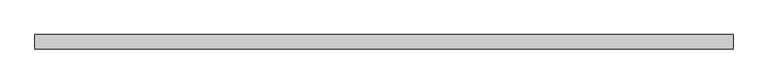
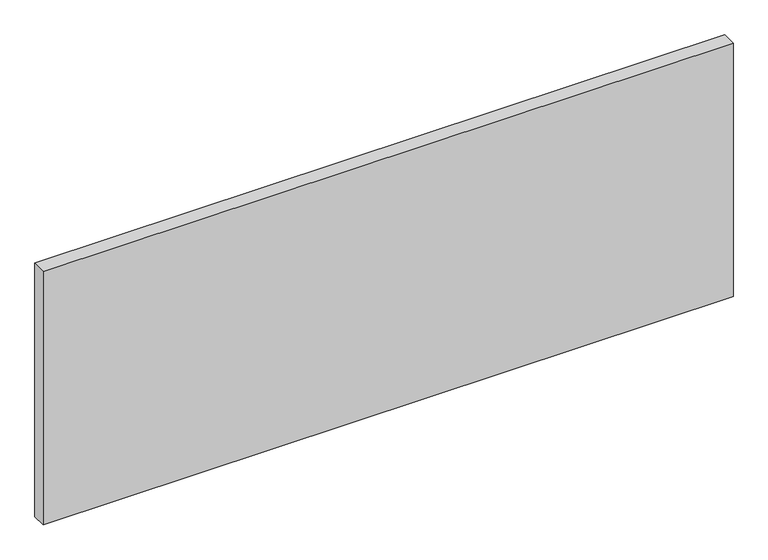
"""IFC4 building model written with IfcOpenShell, lengths in millimetres: proxy geometry, AERO^OFFICE 4_25x78 HAT BRIDGE-WORKSURFACE."""

import ifcopenshell
import ifcopenshell.guid

model = None  # the IFC model being written
_history = None  # IfcOwnerHistory: only IFC2X3 demands one
_inside = {}  # id of a spatial element -> (the spatial element, [elements in it])
_under = {}  # id of a project, library or spatial element -> (it, [spatial elements below it])
_declared = {}  # id of a project -> (the project, [libraries it declares])
_typed = {}  # id of a type object -> (the type object, [elements of that type])
_made_of = {}  # id of a material, layer set ... -> (it, [elements and type objects made of it])


def new_model(schema):
    """Start an empty IFC model of exactly this schema.

    Asked for "IFC4X3", IfcOpenShell would pick the latest addendum, in which some entities
    have other attributes; the version numbers below select the first issue.
    IFC2X3 requires an IfcOwnerHistory on every rooted entity: one is made here for all.
    """
    global model, _history
    if schema == "IFC4X3":
        model = ifcopenshell.file(schema_version=(4, 3, 0, 0))
    else:
        model = ifcopenshell.file(schema=schema)
    _inside.clear()
    _under.clear()
    _declared.clear()
    _typed.clear()
    _made_of.clear()
    _history = None
    if model.schema == "IFC2X3":
        org = make("IfcOrganization", Name="unknown")
        user = make(
            "IfcPersonAndOrganization",
            ThePerson=make("IfcPerson", FamilyName="unknown"),
            TheOrganization=org,
        )
        app = make(
            "IfcApplication",
            ApplicationDeveloper=org,
            Version="unknown",
            ApplicationFullName="unknown",
            ApplicationIdentifier="unknown",
        )
        _history = make(
            "IfcOwnerHistory",
            OwningUser=user,
            OwningApplication=app,
            ChangeAction="ADDED",
            CreationDate=0,
        )
    return model


def make(cls, **values):
    """One entity of the class cls with the attributes given. An attribute that is None is left unset."""
    return model.create_entity(
        cls, **{name: value for name, value in values.items() if value is not None}
    )


def rooted(cls, **values):
    """An entity with a GlobalId (a new one), such as an element, a storey or a relation."""
    return make(cls, GlobalId=ifcopenshell.guid.new(), OwnerHistory=_history, **values)


def si_unit(unit_type, name, prefix=None):
    """IfcSIUnit, for example si_unit("LENGTHUNIT", "METRE", prefix="MILLI")."""
    return make("IfcSIUnit", UnitType=unit_type, Prefix=prefix, Name=name)


def assignment(units):
    """IfcUnitAssignment: the units of a project."""
    return None if units is None else make("IfcUnitAssignment", Units=units)


def point(xyz):
    """IfcCartesianPoint."""
    return None if xyz is None else make("IfcCartesianPoint", Coordinates=xyz)


def direction(xyz):
    """IfcDirection."""
    return None if xyz is None else make("IfcDirection", DirectionRatios=xyz)


def frame(location, z_axis=None, x_axis=None):
    """IfcAxis2Placement3D, a coordinate frame: its origin and axes. An axis left out is left unset."""
    return make(
        "IfcAxis2Placement3D",
        Location=point(location),
        Axis=direction(z_axis),
        RefDirection=direction(x_axis),
    )


def origin():
    """The frame at (0, 0, 0) with its axes left unset."""
    return frame((0.0, 0.0, 0.0))


def place(relative_to, where):
    """IfcLocalPlacement: puts the frame where relative to a parent placement (None: the world)."""
    return make(
        "IfcLocalPlacement", PlacementRelTo=relative_to, RelativePlacement=where
    )


def context(
    kind, dimensions, precision=None, world=None, true_north=None, identifier=None
):
    """IfcGeometricRepresentationContext, for example the 3D "Model" context."""
    return make(
        "IfcGeometricRepresentationContext",
        ContextIdentifier=identifier,
        ContextType=kind,
        CoordinateSpaceDimension=dimensions,
        Precision=precision,
        WorldCoordinateSystem=world,
        TrueNorth=true_north,
    )


def project(units=None, contexts=None):
    """IfcProject with its units and contexts."""
    return rooted(
        "IfcProject",
        Name="project",
        RepresentationContexts=contexts,
        UnitsInContext=assignment(units),
    )


def spatial(cls, under=None, at=None, **own):
    """A site, building, storey or space (cls), placed at a placement, below another one or the project."""
    s = rooted(cls, ObjectPlacement=at, **own)
    if under is not None:
        _under.setdefault(under.id(), (under, []))[1].append(s)
    return s


def polyline(points):
    """IfcPolyline through the points."""
    return make("IfcPolyline", Points=[point(p) for p in points])


def outline(outer, holes=None, kind="AREA"):
    """IfcArbitraryClosedProfileDef: a profile drawn as a closed curve; with holes, ...WithVoids."""
    if holes is None:
        return make("IfcArbitraryClosedProfileDef", ProfileType=kind, OuterCurve=outer)
    return make(
        "IfcArbitraryProfileDefWithVoids",
        ProfileType=kind,
        OuterCurve=outer,
        InnerCurves=holes,
    )


def extrude(swept, where, along, depth):
    """IfcExtrudedAreaSolid: the profile swept, set in the frame where, extruded along a direction by depth."""
    return make(
        "IfcExtrudedAreaSolid",
        SweptArea=swept,
        Position=where,
        ExtrudedDirection=direction(along),
        Depth=depth,
    )


def shape(context_of_items, identifier, shape_type, items):
    """IfcShapeRepresentation: the items that make up one representation, for example the "Body"."""
    return make(
        "IfcShapeRepresentation",
        ContextOfItems=context_of_items,
        RepresentationIdentifier=identifier,
        RepresentationType=shape_type,
        Items=items,
    )


def source(mapping_origin, context_of_items, identifier, shape_type, items):
    """IfcRepresentationMap: a shape defined once, which mapped items show again and again."""
    return make(
        "IfcRepresentationMap",
        MappingOrigin=mapping_origin,
        MappedRepresentation=shape(context_of_items, identifier, shape_type, items),
    )


def transform(
    local_origin,
    x_axis=None,
    y_axis=None,
    z_axis=None,
    scale=None,
    scale2=None,
    scale3=None,
    uniform=True,
):
    """IfcCartesianTransformationOperator3D, or its non-uniform kind. x_axis, y_axis, z_axis: its Axis1, 2, 3."""
    if uniform:
        return make(
            "IfcCartesianTransformationOperator3D",
            Axis1=direction(x_axis),
            Axis2=direction(y_axis),
            LocalOrigin=point(local_origin),
            Scale=scale,
            Axis3=direction(z_axis),
        )
    return make(
        "IfcCartesianTransformationOperator3DnonUniform",
        Axis1=direction(x_axis),
        Axis2=direction(y_axis),
        LocalOrigin=point(local_origin),
        Scale=scale,
        Axis3=direction(z_axis),
        Scale2=scale2,
        Scale3=scale3,
    )


def mapped(mapping_source, mapping_target):
    """IfcMappedItem: shows the shape of a source again, moved by a transform."""
    return make(
        "IfcMappedItem", MappingSource=mapping_source, MappingTarget=mapping_target
    )


def made_of(thing, what):
    """Note that an element or type object is made of a material, layer set ...; save() writes the relation."""
    if what is not None:
        _made_of.setdefault(what.id(), (what, []))[1].append(thing)
    return thing


def element(
    cls,
    number,
    at=None,
    inside=None,
    cuts=None,
    type_object=None,
    material=None,
    context=None,
    identifier="Body",
    shape_type=None,
    held_by="IfcProductDefinitionShape",
    body=None,
    shapes=None,
    **own,
):
    """One element of the class cls, such as IfcWall. Its Tag is "e" and its number.

    at: its placement. inside: the storey or other place that contains it. cuts: it is an
    opening in that element (IfcRelVoidsElement). A single representation is given by context,
    identifier, shape_type and body (its items); several are given by shapes. held_by: the class
    of the entity that holds the representations. save() writes the other relations.
    """
    e = rooted(cls, Tag="e%d" % number, ObjectPlacement=at, **own)
    if body is not None:
        shapes = [shape(context, identifier, shape_type, body)]
    if shapes is not None:
        e.Representation = make(held_by, Representations=shapes)
    if inside is not None:
        _inside.setdefault(inside.id(), (inside, []))[1].append(e)
    if cuts is not None:
        rooted(
            "IfcRelVoidsElement", RelatingBuildingElement=cuts, RelatedOpeningElement=e
        )
    if type_object is not None:
        _typed.setdefault(type_object.id(), (type_object, []))[1].append(e)
    return made_of(e, material)


def aggregate(whole, parts):
    """IfcRelAggregates: a whole, such as a stair, and the parts it consists of."""
    return rooted("IfcRelAggregates", RelatingObject=whole, RelatedObjects=parts)


def save(model, path):
    """Write the relations noted so far, then the file.

    IfcRelAggregates (storeys below a building ...), IfcRelContainedInSpatialStructure (elements
    in a storey), IfcRelDefinesByType, IfcRelAssociatesMaterial and IfcRelDeclares: one each for
    every whole, place, type object, material and project.
    """
    for whole, parts in _under.values():
        aggregate(whole, parts)
    for where, things in _inside.values():
        rooted(
            "IfcRelContainedInSpatialStructure",
            RelatedElements=things,
            RelatingStructure=where,
        )
    for kind, things in _typed.values():
        rooted("IfcRelDefinesByType", RelatedObjects=things, RelatingType=kind)
    for what, things in _made_of.values():
        rooted("IfcRelAssociatesMaterial", RelatedObjects=things, RelatingMaterial=what)
    for by, libraries in _declared.values():
        rooted("IfcRelDeclares", RelatingContext=by, RelatedDefinitions=libraries)
    model.write(path)


def generic_models_8ad9102e(model_context):
    return source(origin(), model_context, "Body", "SweptSolid", [
        extrude(outline(polyline([(0.0, 0.0), (0.0, 38.1), (1828.8, 38.1), (1828.8, 0.0), (0.0, 0.0)])), frame((0.0, 0.0, -711.2), z_axis=(0.0, 0.0, 1.0), x_axis=(1.0, 0.0, 0.0)), (0.0, 0.0, 1.0), 711.2),
    ])


if __name__ == "__main__":
    model = new_model("IFC4")
    model_context = context("Model", 3, world=origin())
    ifc_project = project(units=[si_unit("LENGTHUNIT", "METRE", prefix="MILLI")], contexts=[model_context])
    site = spatial("IfcSite", under=ifc_project)
    building = spatial("IfcBuilding", under=site)
    placement = place(None, origin())
    generic_models_shape = generic_models_8ad9102e(model_context)
    element("IfcBuildingElementProxy", 1, Name="AERO^OFFICE 4_25x78 HAT BRIDGE-WORKSURFACE", ObjectType="AERO^OFFICE 4_25x78 HAT BRIDGE-WORKSURFACE", at=placement, inside=building, context=model_context, shape_type="MappedRepresentation", body=[
        mapped(generic_models_shape, transform((0.0, 0.0, 0.0), x_axis=(1.0, 0.0, 0.0), y_axis=(0.0, 1.0, 0.0), z_axis=(0.0, 0.0, 1.0))),
    ])
    save(model, "model.ifc")
